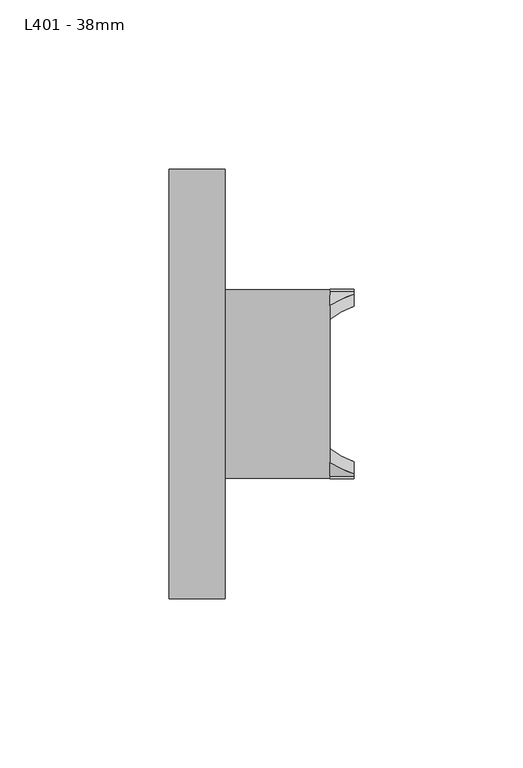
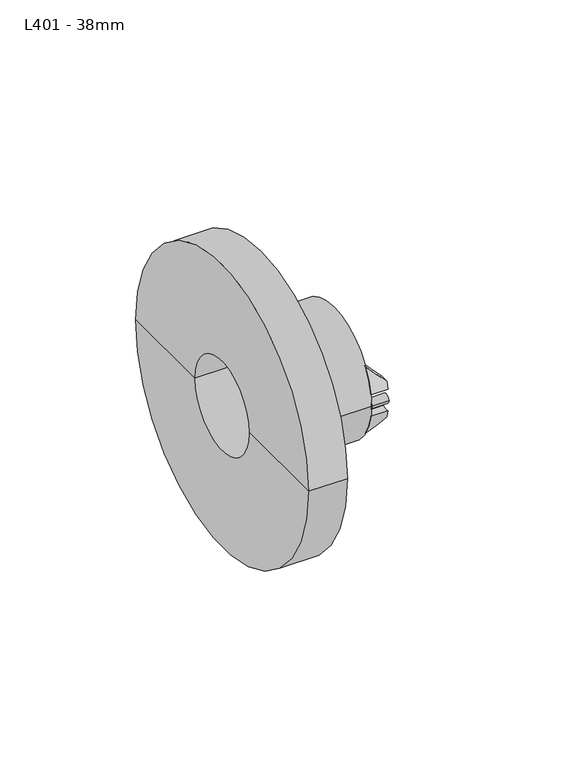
"""IFC4 building model written with IfcOpenShell, lengths in millimetres: pipe fitting geometry, Durapipe_PipeFitting_VulcatheneEnfusion_Flange_L40 : L401 - 38mm."""

from ifc_helpers import new_model, si_unit, point, frame, frame_2d, origin, place, context, project, spatial, polyline, circle_curve, ellipse_curve, trimmed, segment, composite_curve, outline, extrude, source, transform, mapped, element, save
from ifc_brep_helpers import plane_surface, cylinder_surface, revolved_surface, advanced_brep


def l401_38mm_f3e5b10d(model_context):
    return source(origin(), model_context, "Body", "SolidModel", [
        advanced_brep(
        [(30.9, -23.9215865, -4.5475485), (30.9, -27.2215865, -4.8484767), (30.9, -26.4854469, -7.94), (30.9, -23.0190986, -7.94), (23.8, -23.2276236, -15.0), (23.8, -27.2215865, -4.8484767), (23.8, -23.9215865, -4.5475485), (23.8, -19.181306, -15.0)],
        [
            (0, 1, circle_curve(frame((30.9, -26.0, 0.0), z_axis=(-1.0, 0.0, 0.0), x_axis=(0.0, 1.0, 0.0)), 5.0)),
            (1, 2, circle_curve(frame((30.9, 0.0, 0.0), z_axis=(1.0, 0.0, 0.0), x_axis=(0.0, 1.0, 0.0)), 27.65)),
            (2, 3),
            (3, 0, circle_curve(frame((30.9, 0.0, 0.0), z_axis=(-1.0, 0.0, 0.0), x_axis=(0.0, 1.0, 0.0)), 24.35)),
            (4, 5, circle_curve(frame((23.8, 0.0, 0.0), z_axis=(-1.0, 0.0, 0.0), x_axis=(0.0, 1.0, 0.0)), 27.65)),
            (5, 6, circle_curve(frame((23.8, -26.0, 0.0), z_axis=(1.0, 0.0, 0.0), x_axis=(0.0, 1.0, 0.0)), 5.0)),
            (6, 7, circle_curve(frame((23.8, 0.0, 0.0), z_axis=(1.0, 0.0, 0.0), x_axis=(0.0, 1.0, 0.0)), 24.35)),
            (7, 4),
            (6, 0),
            (3, 7, ellipse_curve(frame((38.8849858, 0.0, 0.0), z_axis=(0.7051064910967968, 0.0, -0.7091014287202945), x_axis=(-0.7091014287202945, 0.0, -0.7051064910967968)), 34.5337907, 24.35)),
            (4, 2, ellipse_curve(frame((38.8849858, 0.0, 0.0), z_axis=(-0.7051064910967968, 0.0, 0.7091014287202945), x_axis=(0.7091014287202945, 0.0, 0.7051064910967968)), 39.2139348, 27.65)),
            (1, 5),
        ],
        [
            plane_surface(frame((30.9, -23.2276236, -15.0), z_axis=(1.0, 0.0, 0.0), x_axis=(0.0, 1.0, 0.0))),
            plane_surface(frame((23.8, -23.2276236, -15.0), z_axis=(-1.0, 0.0, 0.0), x_axis=(0.0, -1.0, 0.0))),
            revolved_surface(polyline([(14.397025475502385, 24.35, 0.0), (63.372946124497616, 24.35, 0.0)]), (23.8, 0.0, 0.0), (-1.0, 0.0, 0.0)),
            cylinder_surface(frame((23.8, 0.0, 0.0), z_axis=(1.0, 0.0, 0.0), x_axis=(0.0, 1.0, 0.0)), 27.65),
            revolved_surface(polyline([(30.9, -21.0, 0.0), (23.8, -21.0, 0.0)]), (23.8, -26.0, 0.0), (1.0, 0.0, 0.0)),
            plane_surface(frame((23.8, 27.65, -15.0), z_axis=(0.7051064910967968, 0.0, -0.7091014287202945), x_axis=(0.0, -1.0, 0.0))),
        ],
        [
            (0, [[1, 2, 3, 4]]),
            (1, [[5, 6, 7, 8]]),
            (2, [[-7, 9, -4, 10]]),
            (3, [[-5, 11, -2, 12]]),
            (4, [[-1, -9, -6, -12]]),
            (5, [[-3, -11, -8, -10]]),
        ],
    ),
        advanced_brep(
        [(30.9, -27.2215865, 4.8484767), (30.9, -23.9215865, 4.5475485), (30.9, -23.0190986, 7.94), (30.9, -26.4854469, 7.94), (23.8, -27.2215865, 4.8484767), (23.8, -23.2276236, 15.0), (23.8, -19.181306, 15.0), (23.8, -23.9215865, 4.5475485)],
        [
            (0, 1, circle_curve(frame((30.9, -26.0, 0.0), z_axis=(-1.0, 0.0, 0.0), x_axis=(0.0, 1.0, 0.0)), 5.0)),
            (1, 2, circle_curve(frame((30.9, 0.0, 0.0), z_axis=(-1.0, 0.0, 0.0), x_axis=(0.0, 1.0, 0.0)), 24.35)),
            (2, 3),
            (3, 0, circle_curve(frame((30.9, 0.0, 0.0), z_axis=(1.0, 0.0, 0.0), x_axis=(0.0, 1.0, 0.0)), 27.65)),
            (4, 5, circle_curve(frame((23.8, 0.0, 0.0), z_axis=(-1.0, 0.0, 0.0), x_axis=(0.0, 1.0, 0.0)), 27.65)),
            (5, 6),
            (6, 7, circle_curve(frame((23.8, 0.0, 0.0), z_axis=(1.0, 0.0, 0.0), x_axis=(0.0, 1.0, 0.0)), 24.35)),
            (7, 4, circle_curve(frame((23.8, -26.0, 0.0), z_axis=(1.0, 0.0, 0.0), x_axis=(0.0, 1.0, 0.0)), 5.0)),
            (6, 2, ellipse_curve(frame((38.8849858, 0.0, 0.0), z_axis=(0.7051064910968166, 0.0, 0.7091014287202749), x_axis=(-0.7091014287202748, 0.0, 0.7051064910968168)), 34.5337907, 24.35)),
            (1, 7),
            (4, 0),
            (3, 5, ellipse_curve(frame((38.8849858, 0.0, 0.0), z_axis=(-0.7051064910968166, 0.0, -0.7091014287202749), x_axis=(0.7091014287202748, 0.0, -0.7051064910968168)), 39.2139348, 27.65)),
        ],
        [
            plane_surface(frame((30.9, -23.2276236, -15.0), z_axis=(1.0, 0.0, 0.0), x_axis=(0.0, 1.0, 0.0))),
            plane_surface(frame((23.8, -23.2276236, -15.0), z_axis=(-1.0, 0.0, 0.0), x_axis=(0.0, -1.0, 0.0))),
            revolved_surface(polyline([(14.397025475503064, 24.35, 0.0), (63.372946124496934, 24.35, 0.0)]), (23.8, 0.0, 0.0), (-1.0, 0.0, 0.0)),
            cylinder_surface(frame((23.8, 0.0, 0.0), z_axis=(1.0, 0.0, 0.0), x_axis=(0.0, 1.0, 0.0)), 27.65),
            revolved_surface(polyline([(30.9, -21.0, 0.0), (23.8, -21.0, 0.0)]), (23.8, -26.0, 0.0), (1.0, 0.0, 0.0)),
            plane_surface(frame((30.9, 27.65, 7.94), z_axis=(0.7051064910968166, 0.0, 0.7091014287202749), x_axis=(0.0, -1.0, 0.0))),
        ],
        [
            (0, [[1, 2, 3, 4]]),
            (1, [[5, 6, 7, 8]]),
            (2, [[-7, 9, -2, 10]]),
            (3, [[-5, 11, -4, 12]]),
            (4, [[-1, -11, -8, -10]]),
            (5, [[-3, -9, -6, -12]]),
        ],
    ),
        advanced_brep(
        [(30.9, 27.2215865, -4.8484767), (30.9, 23.9215865, -4.5475485), (30.9, 23.0190986, -7.94), (30.9, 26.4854469, -7.94), (23.8, 27.2215865, -4.8484767), (23.8, 23.2276236, -15.0), (23.8, 19.181306, -15.0), (23.8, 23.9215865, -4.5475485)],
        [
            (0, 1, circle_curve(frame((30.9, 26.0, 0.0), z_axis=(-1.0, 0.0, 0.0), x_axis=(0.0, 1.0, 0.0)), 5.0)),
            (1, 2, circle_curve(frame((30.9, 0.0, 0.0), z_axis=(-1.0, 0.0, 0.0), x_axis=(0.0, 1.0, 0.0)), 24.35)),
            (2, 3),
            (3, 0, circle_curve(frame((30.9, 0.0, 0.0), z_axis=(1.0, 0.0, 0.0), x_axis=(0.0, 1.0, 0.0)), 27.65)),
            (4, 5, circle_curve(frame((23.8, 0.0, 0.0), z_axis=(-1.0, 0.0, 0.0), x_axis=(0.0, 1.0, 0.0)), 27.65)),
            (5, 6),
            (6, 7, circle_curve(frame((23.8, 0.0, 0.0), z_axis=(1.0, 0.0, 0.0), x_axis=(0.0, 1.0, 0.0)), 24.35)),
            (7, 4, circle_curve(frame((23.8, 26.0, 0.0), z_axis=(1.0, 0.0, 0.0), x_axis=(0.0, 1.0, 0.0)), 5.0)),
            (6, 2, ellipse_curve(frame((38.8849858, 0.0, 0.0), z_axis=(0.7051064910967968, 0.0, -0.7091014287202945), x_axis=(-0.7091014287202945, 0.0, -0.7051064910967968)), 34.5337907, 24.35)),
            (1, 7),
            (4, 0),
            (3, 5, ellipse_curve(frame((38.8849858, 0.0, 0.0), z_axis=(-0.7051064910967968, 0.0, 0.7091014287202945), x_axis=(0.7091014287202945, 0.0, 0.7051064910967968)), 39.2139348, 27.65)),
        ],
        [
            plane_surface(frame((30.9, -23.2276236, -15.0), z_axis=(1.0, 0.0, 0.0), x_axis=(0.0, 1.0, 0.0))),
            plane_surface(frame((23.8, -23.2276236, -15.0), z_axis=(-1.0, 0.0, 0.0), x_axis=(0.0, -1.0, 0.0))),
            revolved_surface(polyline([(14.397025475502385, 24.35, 0.0), (63.372946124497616, 24.35, 0.0)]), (23.8, 0.0, 0.0), (-1.0, 0.0, 0.0)),
            cylinder_surface(frame((23.8, 0.0, 0.0), z_axis=(1.0, 0.0, 0.0), x_axis=(0.0, 1.0, 0.0)), 27.65),
            revolved_surface(polyline([(30.9, 31.0, 0.0), (23.8, 31.0, 0.0)]), (23.8, 26.0, 0.0), (1.0, 0.0, 0.0)),
            plane_surface(frame((23.8, 27.65, -15.0), z_axis=(0.7051064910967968, 0.0, -0.7091014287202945), x_axis=(0.0, -1.0, 0.0))),
        ],
        [
            (0, [[1, 2, 3, 4]]),
            (1, [[5, 6, 7, 8]]),
            (2, [[-7, 9, -2, 10]]),
            (3, [[-5, 11, -4, 12]]),
            (4, [[-1, -11, -8, -10]]),
            (5, [[-3, -9, -6, -12]]),
        ],
    ),
        advanced_brep(
        [(30.9, 23.9215865, 4.5475485), (30.9, 27.2215865, 4.8484767), (30.9, 26.4854469, 7.94), (30.9, 23.0190986, 7.94), (23.8, 23.2276236, 15.0), (23.8, 27.2215865, 4.8484767), (23.8, 23.9215865, 4.5475485), (23.8, 19.181306, 15.0)],
        [
            (0, 1, circle_curve(frame((30.9, 26.0, 0.0), z_axis=(-1.0, 0.0, 0.0), x_axis=(0.0, 1.0, 0.0)), 5.0)),
            (1, 2, circle_curve(frame((30.9, 0.0, 0.0), z_axis=(1.0, 0.0, 0.0), x_axis=(0.0, 1.0, 0.0)), 27.65)),
            (2, 3),
            (3, 0, circle_curve(frame((30.9, 0.0, 0.0), z_axis=(-1.0, 0.0, 0.0), x_axis=(0.0, 1.0, 0.0)), 24.35)),
            (4, 5, circle_curve(frame((23.8, 0.0, 0.0), z_axis=(-1.0, 0.0, 0.0), x_axis=(0.0, 1.0, 0.0)), 27.65)),
            (5, 6, circle_curve(frame((23.8, 26.0, 0.0), z_axis=(1.0, 0.0, 0.0), x_axis=(0.0, 1.0, 0.0)), 5.0)),
            (6, 7, circle_curve(frame((23.8, 0.0, 0.0), z_axis=(1.0, 0.0, 0.0), x_axis=(0.0, 1.0, 0.0)), 24.35)),
            (7, 4),
            (6, 0),
            (3, 7, ellipse_curve(frame((38.8849858, 0.0, 0.0), z_axis=(0.7051064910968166, 0.0, 0.7091014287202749), x_axis=(-0.7091014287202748, 0.0, 0.7051064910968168)), 34.5337907, 24.35)),
            (4, 2, ellipse_curve(frame((38.8849858, 0.0, 0.0), z_axis=(-0.7051064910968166, 0.0, -0.7091014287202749), x_axis=(0.7091014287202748, 0.0, -0.7051064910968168)), 39.2139348, 27.65)),
            (1, 5),
        ],
        [
            plane_surface(frame((30.9, -23.2276236, -15.0), z_axis=(1.0, 0.0, 0.0), x_axis=(0.0, 1.0, 0.0))),
            plane_surface(frame((23.8, -23.2276236, -15.0), z_axis=(-1.0, 0.0, 0.0), x_axis=(0.0, -1.0, 0.0))),
            revolved_surface(polyline([(14.397025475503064, 24.35, 0.0), (63.372946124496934, 24.35, 0.0)]), (23.8, 0.0, 0.0), (-1.0, 0.0, 0.0)),
            cylinder_surface(frame((23.8, 0.0, 0.0), z_axis=(1.0, 0.0, 0.0), x_axis=(0.0, 1.0, 0.0)), 27.65),
            revolved_surface(polyline([(30.9, 31.0, 0.0), (23.8, 31.0, 0.0)]), (23.8, 26.0, 0.0), (1.0, 0.0, 0.0)),
            plane_surface(frame((30.9, 27.65, 7.94), z_axis=(0.7051064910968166, 0.0, 0.7091014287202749), x_axis=(0.0, -1.0, 0.0))),
        ],
        [
            (0, [[1, 2, 3, 4]]),
            (1, [[5, 6, 7, 8]]),
            (2, [[-7, 9, -4, 10]]),
            (3, [[-5, 11, -2, 12]]),
            (4, [[-1, -9, -6, -12]]),
            (5, [[-3, -11, -8, -10]]),
        ],
    ),
        extrude(outline(composite_curve([segment(trimmed(circle_curve(frame_2d((-26.0, 0.0)), 2.0), [point((-28.0, 0.0))], [point((-24.0, 0.0))], False, "CARTESIAN"), True, "CONTINUOUS"), segment(trimmed(circle_curve(frame_2d((-26.0, 0.0)), 2.0), [point((-24.0, 0.0))], [point((-28.0, 0.0))], False, "CARTESIAN"), True, "CONTINUOUS")], self_intersect=False)), frame((23.8, 0.0, 0.0), z_axis=(1.0, 0.0, 0.0), x_axis=(0.0, 1.0, 0.0)), (0.0, 0.0, 1.0), 7.1),
        extrude(outline(composite_curve([segment(trimmed(circle_curve(frame_2d((26.0, 0.0)), 2.0), [point((24.0, 0.0))], [point((28.0, 0.0))], False, "CARTESIAN"), True, "CONTINUOUS"), segment(trimmed(circle_curve(frame_2d((26.0, 0.0)), 2.0), [point((28.0, 0.0))], [point((24.0, 0.0))], False, "CARTESIAN"), True, "CONTINUOUS")], self_intersect=False)), frame((23.8, 0.0, 0.0), z_axis=(1.0, 0.0, 0.0), x_axis=(0.0, 1.0, 0.0)), (0.0, 0.0, 1.0), 7.1),
        advanced_brep(
        [(-23.8, -20.2, 0.0), (-23.8, 20.2, 0.0), (-23.8, 63.5, 0.0), (-23.8, -63.5, 0.0), (4.7, -20.2, 0.0), (4.7, 20.2, 0.0), (4.7, -24.2, 0.0), (4.7, 24.2, 0.0), (23.8, -24.2, 0.0), (23.8, 24.2, 0.0), (23.8, -27.8, 0.0), (23.8, 27.8, 0.0), (-7.2, -27.8, 0.0), (-7.2, 27.8, 0.0), (-7.2, -63.5, 0.0), (-7.2, 63.5, 0.0)],
        [
            (0, 1, circle_curve(frame((-23.8, 0.0, 0.0), z_axis=(1.0, 0.0, 0.0), x_axis=(0.0, 1.0, 0.0)), 20.2)),
            (1, 2),
            (2, 3, circle_curve(frame((-23.8, 0.0, 0.0), z_axis=(-1.0, 0.0, 0.0), x_axis=(0.0, 1.0, 0.0)), 63.5)),
            (3, 0),
            (1, 0, circle_curve(frame((-23.8, 0.0, 0.0), z_axis=(1.0, 0.0, 0.0), x_axis=(0.0, 1.0, 0.0)), 20.2)),
            (3, 2, circle_curve(frame((-23.8, 0.0, 0.0), z_axis=(-1.0, 0.0, 0.0), x_axis=(0.0, 1.0, 0.0)), 63.5)),
            (0, 4),
            (4, 5, circle_curve(frame((4.7, 0.0, 0.0), z_axis=(1.0, 0.0, 0.0), x_axis=(0.0, 1.0, 0.0)), 20.2)),
            (5, 1),
            (5, 4, circle_curve(frame((4.7, 0.0, 0.0), z_axis=(1.0, 0.0, 0.0), x_axis=(0.0, 1.0, 0.0)), 20.2)),
            (4, 6),
            (6, 7, circle_curve(frame((4.7, 0.0, 0.0), z_axis=(1.0, 0.0, 0.0), x_axis=(0.0, 1.0, 0.0)), 24.2)),
            (7, 5),
            (7, 6, circle_curve(frame((4.7, 0.0, 0.0), z_axis=(1.0, 0.0, 0.0), x_axis=(0.0, 1.0, 0.0)), 24.2)),
            (6, 8),
            (8, 9, circle_curve(frame((23.8, 0.0, 0.0), z_axis=(1.0, 0.0, 0.0), x_axis=(0.0, 1.0, 0.0)), 24.2)),
            (9, 7),
            (9, 8, circle_curve(frame((23.8, 0.0, 0.0), z_axis=(1.0, 0.0, 0.0), x_axis=(0.0, 1.0, 0.0)), 24.2)),
            (8, 10),
            (10, 11, circle_curve(frame((23.8, 0.0, 0.0), z_axis=(1.0, 0.0, 0.0), x_axis=(0.0, 1.0, 0.0)), 27.8)),
            (11, 9),
            (11, 10, circle_curve(frame((23.8, 0.0, 0.0), z_axis=(1.0, 0.0, 0.0), x_axis=(0.0, 1.0, 0.0)), 27.8)),
            (10, 12),
            (12, 13, circle_curve(frame((-7.2, 0.0, 0.0), z_axis=(1.0, 0.0, 0.0), x_axis=(0.0, 1.0, 0.0)), 27.8)),
            (13, 11),
            (13, 12, circle_curve(frame((-7.2, 0.0, 0.0), z_axis=(1.0, 0.0, 0.0), x_axis=(0.0, 1.0, 0.0)), 27.8)),
            (12, 14),
            (14, 15, circle_curve(frame((-7.2, 0.0, 0.0), z_axis=(1.0, 0.0, 0.0), x_axis=(0.0, 1.0, 0.0)), 63.5)),
            (15, 13),
            (15, 14, circle_curve(frame((-7.2, 0.0, 0.0), z_axis=(1.0, 0.0, 0.0), x_axis=(0.0, 1.0, 0.0)), 63.5)),
            (2, 15),
            (14, 3),
        ],
        [
            plane_surface(frame((-23.8, 0.0, 0.0), z_axis=(-1.0, 0.0, 0.0), x_axis=(0.0, 1.0, 0.0))),
            revolved_surface(polyline([(-23.799999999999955, 20.2, 0.0), (4.7000000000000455, 20.2, 0.0)]), (1566.2772424, 0.0, 0.0), (-1.0, 0.0, 0.0)),
            plane_surface(frame((4.7, 0.0, 0.0), z_axis=(1.0, 0.0, 0.0), x_axis=(0.0, 1.0, 0.0))),
            revolved_surface(polyline([(4.7000000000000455, 24.2, 0.0), (23.799999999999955, 24.2, 0.0)]), (1566.2772424, 0.0, 0.0), (-1.0, 0.0, 0.0)),
            plane_surface(frame((23.8, 0.0, 0.0), z_axis=(1.0, 0.0, 0.0), x_axis=(0.0, 1.0, 0.0))),
            cylinder_surface(frame((1566.2772424, 0.0, 0.0), z_axis=(-1.0, 0.0, 0.0), x_axis=(0.0, 1.0, 0.0)), 27.8),
            plane_surface(frame((-7.2, 0.0, 0.0), z_axis=(1.0, 0.0, 0.0), x_axis=(0.0, 1.0, 0.0))),
            cylinder_surface(frame((1566.2772424, 0.0, 0.0), z_axis=(-1.0, 0.0, 0.0), x_axis=(0.0, 1.0, 0.0)), 63.5),
        ],
        [
            (0, [[1, 2, 3, 4]]),
            (0, [[-2, 5, -4, 6]]),
            (1, [[-1, 7, 8, 9]]),
            (1, [[-5, -9, 10, -7]]),
            (2, [[-8, 11, 12, 13]]),
            (2, [[-10, -13, 14, -11]]),
            (3, [[-12, 15, 16, 17]]),
            (3, [[-14, -17, 18, -15]]),
            (4, [[-16, 19, 20, 21]]),
            (4, [[-18, -21, 22, -19]]),
            (5, [[-20, 23, 24, 25]]),
            (5, [[-22, -25, 26, -23]]),
            (6, [[-24, 27, 28, 29]]),
            (6, [[-26, -29, 30, -27]]),
            (7, [[-3, 31, -28, 32]]),
            (7, [[-6, -32, -30, -31]]),
        ],
    ),
    ])


if __name__ == "__main__":
    model = new_model("IFC4")
    model_context = context("Model", 3, world=origin())
    ifc_project = project(units=[si_unit("LENGTHUNIT", "METRE", prefix="MILLI")], contexts=[model_context])
    site = spatial("IfcSite", under=ifc_project)
    building = spatial("IfcBuilding", under=site)
    placement = place(None, origin())
    l401_38mm_shape = l401_38mm_f3e5b10d(model_context)
    element("IfcPipeFitting", 1, ObjectType="Durapipe_PipeFitting_VulcatheneEnfusion_Flange_L40 : L401 - 38mm", at=placement, inside=building, context=model_context, shape_type="MappedRepresentation", body=[
        mapped(l401_38mm_shape, transform((0.0, 0.0, 0.0), x_axis=(1.0, 0.0, 0.0), y_axis=(0.0, 1.0, 0.0), z_axis=(0.0, 0.0, 1.0))),
    ])
    save(model, "model.ifc")
